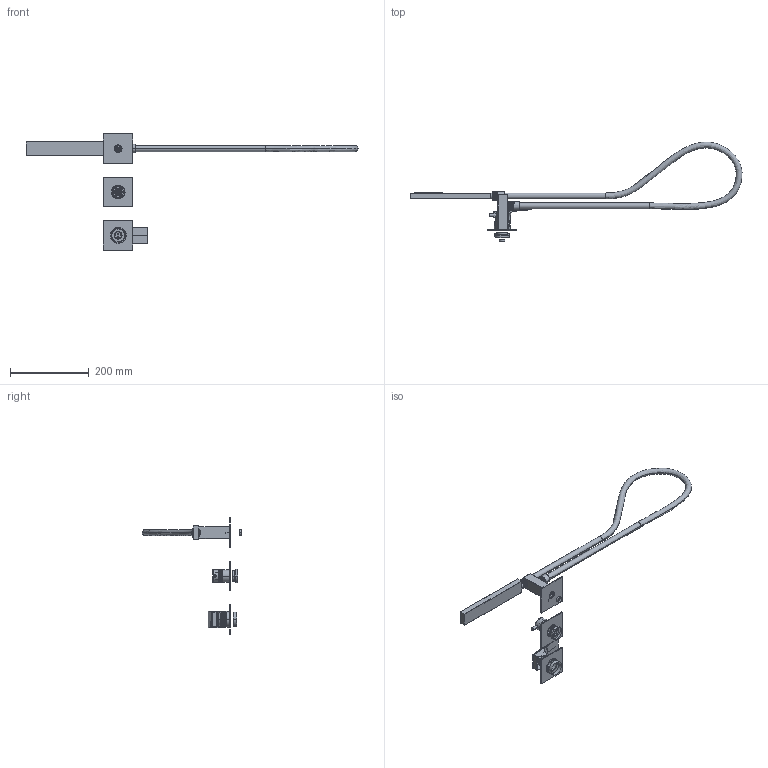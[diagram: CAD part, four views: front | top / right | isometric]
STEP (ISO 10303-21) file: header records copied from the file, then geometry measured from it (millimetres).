
FILE_DESCRIPTION((''),'2;1');
FILE_NAME('87569V2_ASM','2024-12-19T14:58:19',('volponeff'),(''),'CREO PARAMETRIC BY PTC INC, 2022014','CREO PARAMETRIC BY PTC INC, 2022014','');
FILE_SCHEMA(('CONFIG_CONTROL_DESIGN'));
Products named in the file (38): A483C20178_AF0; A302D40038_AF0; D465000187_AF0; D460000139; D494C90058; D494C90113_AF0; D465C90272_AF0; D451E50334; D514C90232_AF0; A536A80133_AF0; D500000808; D505000045; D500001404_MAR; A536A80083; A511000105; D517C90339_AF0; A536A80109; 24_01_2006_AF0; D451D50353_AF0; A503E90162_AF0; 24_01_2014_AF0_ASM; D531C90134_AF0; 24_01_2011_AF0; D451D50351_AF0; 24_01_2020_AF0_ASM; A503B60010; A503B60025_AF0; A536A80115; D517000252; A503B60092; 24_01_2009_AF0; A503E90163_AF0; D451D50352_AF0; 24_01_2018_AF0_ASM; A488000112; A305000146; D511000162; 87569V2_ASM
Assembly tree (38 placements, depth 3):
  87569V2_ASM
    A483C20178_AF0
    A302D40038_AF0
    D465000187_AF0
    D460000139
    D494C90058
    D494C90113_AF0
    D465C90272_AF0
    D451E50334
    D514C90232_AF0
    A536A80133_AF0
    D500000808
    D505000045
    D500001404_MAR
    A536A80083
    A511000105
    D517C90339_AF0
    A536A80109
    24_01_2014_AF0_ASM
      24_01_2006_AF0
      D451D50353_AF0
      A503E90162_AF0
    D531C90134_AF0
    24_01_2020_AF0_ASM
      24_01_2011_AF0
      D451D50351_AF0
    A503B60010  x2
    A503B60025_AF0
    A536A80115
    D517000252
    A503B60092
    24_01_2018_AF0_ASM
      24_01_2009_AF0
      A503E90163_AF0
      D451D50352_AF0
    A488000112
    A305000146
    D511000162
Bounding box: 842.67 x 253.37 x 295 mm (x, y, z)
Volume: 458262.9 mm3; surface area: 236289.7 mm2
Topology: 30 solids, 48 shells, 2258 faces, 5471 edges, 3403 vertices
Faces by surface type: cylinder 729, plane 572, torus 388, cone 290, bspline 171, extrusion 68, sphere 40
Entity records: 108599 total; most frequent: CARTESIAN_POINT 56129, ORIENTED_EDGE 10785, DIRECTION 10770, EDGE_CURVE 5433, AXIS2_PLACEMENT_3D 4321, VERTEX_POINT 3399, EDGE_LOOP 2461, FACE_OUTER_BOUND 2254
